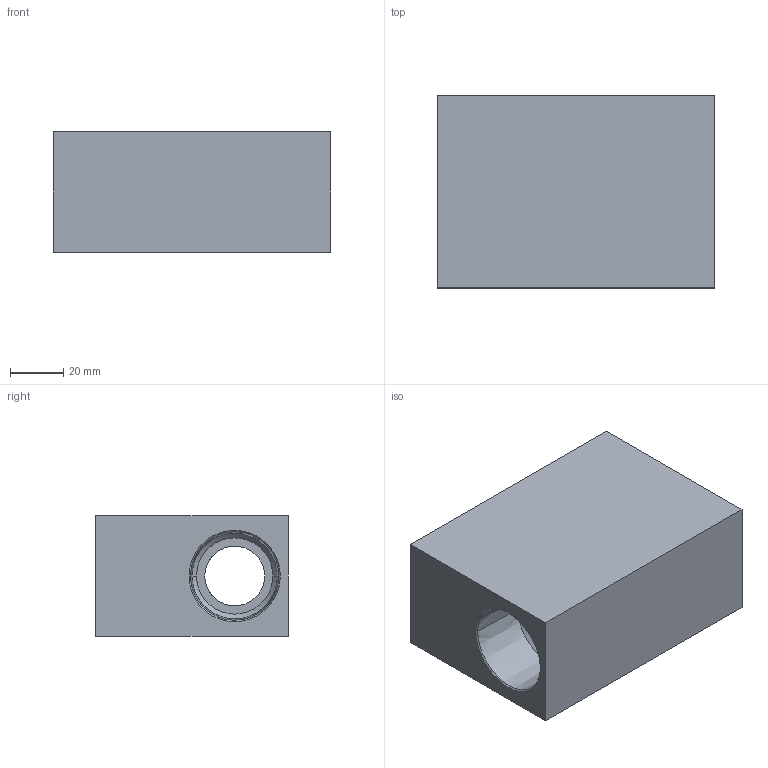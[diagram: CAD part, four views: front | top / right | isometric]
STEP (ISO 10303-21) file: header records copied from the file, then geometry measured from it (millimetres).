
FILE_DESCRIPTION (( 'STEP AP203' ), '1' );
FILE_NAME ('FTNTS16.STEP', '2026-06-26T01:40:53', ( 'USER' ), ( '' ), 'SwSTEP 2.0', 'SolidWorks 2023', '' );
FILE_SCHEMA (( 'CONFIG_CONTROL_DESIGN' ));
Length unit declared in the file: millimetre
Products named in the file (1): FTNTS16
Bounding box: 104 x 72 x 45 mm (x, y, z)
Volume: 248232.1 mm3; surface area: 41319.4 mm2
Topology: 1 solids, 1 shells, 37 faces, 87 edges, 54 vertices
Faces by surface type: cone 18, cylinder 10, plane 9
Entity records: 1152 total; most frequent: DIRECTION 201, CARTESIAN_POINT 191, ORIENTED_EDGE 174, EDGE_CURVE 87, AXIS2_PLACEMENT_3D 80, VERTEX_POINT 54, EDGE_LOOP 43, CIRCLE 42
